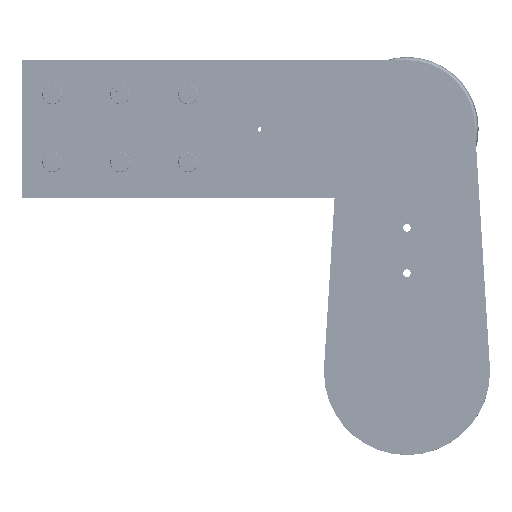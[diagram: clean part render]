
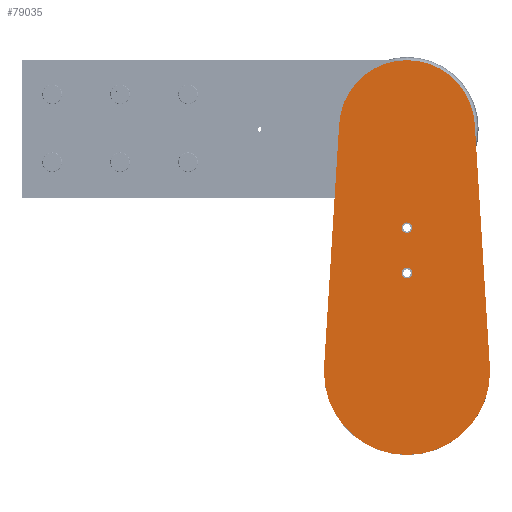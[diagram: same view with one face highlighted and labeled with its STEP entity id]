
A CAD part, top view. The second image highlights one B-rep face of the part: STEP entity #79035.
In plain terms, the highlighted planar face has unit normal (0, 0, 1) as drawn and (0, 0, -1) by its records, which use the part's own axes.
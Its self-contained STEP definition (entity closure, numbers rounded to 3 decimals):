
#604 = DIRECTION ( 'NONE',  ( 1., 0., 0. ) ) ;
#2062 = CARTESIAN_POINT ( 'NONE',  ( 0., 65.5, 0. ) ) ;
#3837 = ORIENTED_EDGE ( 'NONE', *, *, #18847, .F. ) ;
#4061 = ORIENTED_EDGE ( 'NONE', *, *, #73152, .F. ) ;
#4554 = CARTESIAN_POINT ( 'NONE',  ( 0., 161.5, 0. ) ) ;
#4667 = VECTOR ( 'NONE', #15686, 1000. ) ;
#4854 = DIRECTION ( 'NONE',  ( 0., 0., 1. ) ) ;
#5649 = EDGE_CURVE ( 'NONE', #46720, #52131, #33349, .T. ) ;
#6882 = AXIS2_PLACEMENT_3D ( 'NONE', #2062, #68586, #54022 ) ;
#7053 = VERTEX_POINT ( 'NONE', #14180 ) ;
#7165 = DIRECTION ( 'NONE',  ( 1., 0., 0. ) ) ;
#8297 = ORIENTED_EDGE ( 'NONE', *, *, #17674, .F. ) ;
#9070 = AXIS2_PLACEMENT_3D ( 'NONE', #25290, #45621, #31958 ) ;
#9229 = CARTESIAN_POINT ( 'NONE',  ( 0., 0., 0. ) ) ;
#10622 = VERTEX_POINT ( 'NONE', #28036 ) ;
#11566 = VERTEX_POINT ( 'NONE', #48625 ) ;
#12191 = DIRECTION ( 'NONE',  ( 0., 0., 1. ) ) ;
#13316 = ORIENTED_EDGE ( 'NONE', *, *, #32595, .F. ) ;
#13654 = DIRECTION ( 'NONE',  ( 1., 0., 0. ) ) ;
#14180 = CARTESIAN_POINT ( 'NONE',  ( 3.5, 95.5, 0. ) ) ;
#14545 = AXIS2_PLACEMENT_3D ( 'NONE', #73654, #22569, #80032 ) ;
#15686 = DIRECTION ( 'NONE',  ( -0.062, -0.998, 0. ) ) ;
#16533 = CARTESIAN_POINT ( 'NONE',  ( -44.914, 164.286, 0. ) ) ;
#16604 = CIRCLE ( 'NONE', #24831, 55. ) ;
#17045 = ORIENTED_EDGE ( 'NONE', *, *, #49434, .F. ) ;
#17674 = EDGE_CURVE ( 'NONE', #47295, #7053, #18374, .T. ) ;
#18374 = CIRCLE ( 'NONE', #14545, 3.5 ) ;
#18478 = ORIENTED_EDGE ( 'NONE', *, *, #5649, .F. ) ;
#18847 = EDGE_CURVE ( 'NONE', #36719, #26120, #50358, .T. ) ;
#19042 = CIRCLE ( 'NONE', #6882, 3.5 ) ;
#19119 = CARTESIAN_POINT ( 'NONE',  ( 0., 0., 0. ) ) ;
#19546 = CARTESIAN_POINT ( 'NONE',  ( 54.894, 3.406, 0. ) ) ;
#20799 = ORIENTED_EDGE ( 'NONE', *, *, #24756, .F. ) ;
#20902 = CARTESIAN_POINT ( 'NONE',  ( 0., 95.5, 0. ) ) ;
#22222 = CARTESIAN_POINT ( 'NONE',  ( -44.914, 164.286, 0. ) ) ;
#22569 = DIRECTION ( 'NONE',  ( 0., 0., -1. ) ) ;
#23502 = CIRCLE ( 'NONE', #45712, 3.5 ) ;
#24716 = CIRCLE ( 'NONE', #58627, 3.5 ) ;
#24756 = EDGE_CURVE ( 'NONE', #11566, #36454, #23502, .T. ) ;
#24831 = AXIS2_PLACEMENT_3D ( 'NONE', #9229, #28354, #7165 ) ;
#25290 = CARTESIAN_POINT ( 'NONE',  ( 0., 0., 0. ) ) ;
#26120 = VERTEX_POINT ( 'NONE', #80489 ) ;
#26171 = AXIS2_PLACEMENT_3D ( 'NONE', #85844, #12191, #26325 ) ;
#26325 = DIRECTION ( 'NONE',  ( 1., 0., 0. ) ) ;
#27043 = CARTESIAN_POINT ( 'NONE',  ( 0., 65.5, 0. ) ) ;
#27181 = VERTEX_POINT ( 'NONE', #66016 ) ;
#28036 = CARTESIAN_POINT ( 'NONE',  ( 55., 0., 0. ) ) ;
#28354 = DIRECTION ( 'NONE',  ( 0., 0., 1. ) ) ;
#29102 = AXIS2_PLACEMENT_3D ( 'NONE', #19119, #85585, #65566 ) ;
#31958 = DIRECTION ( 'NONE',  ( 1., 0., 0. ) ) ;
#32345 = VECTOR ( 'NONE', #85035, 1000. ) ;
#32595 = EDGE_CURVE ( 'NONE', #52131, #36719, #54368, .T. ) ;
#33308 = CIRCLE ( 'NONE', #29102, 55. ) ;
#33349 = LINE ( 'NONE', #38581, #32345 ) ;
#33713 = DIRECTION ( 'NONE',  ( 0., 0., -1. ) ) ;
#34058 = EDGE_CURVE ( 'NONE', #26120, #27181, #33308, .T. ) ;
#36454 = VERTEX_POINT ( 'NONE', #50094 ) ;
#36719 = VERTEX_POINT ( 'NONE', #22222 ) ;
#38154 = FACE_BOUND ( 'NONE', #72956, .T. ) ;
#38581 = CARTESIAN_POINT ( 'NONE',  ( 44.914, 164.286, 0. ) ) ;
#39556 = CARTESIAN_POINT ( 'NONE',  ( 44.914, 164.286, 0. ) ) ;
#40929 = DIRECTION ( 'NONE',  ( 0., 0., -1. ) ) ;
#40950 = EDGE_CURVE ( 'NONE', #7053, #47295, #24716, .T. ) ;
#41078 = CARTESIAN_POINT ( 'NONE',  ( -3.5, 95.5, 0. ) ) ;
#41364 = ORIENTED_EDGE ( 'NONE', *, *, #40950, .F. ) ;
#43483 = DIRECTION ( 'NONE',  ( 1., 0., 0. ) ) ;
#43760 = PLANE ( 'NONE',  #72868 ) ;
#44793 = ORIENTED_EDGE ( 'NONE', *, *, #34058, .F. ) ;
#45621 = DIRECTION ( 'NONE',  ( 0., 0., 1. ) ) ;
#45712 = AXIS2_PLACEMENT_3D ( 'NONE', #27043, #33713, #604 ) ;
#46720 = VERTEX_POINT ( 'NONE', #19546 ) ;
#47295 = VERTEX_POINT ( 'NONE', #41078 ) ;
#48625 = CARTESIAN_POINT ( 'NONE',  ( 3.5, 65.5, 0. ) ) ;
#49434 = EDGE_CURVE ( 'NONE', #27181, #10622, #16604, .T. ) ;
#50094 = CARTESIAN_POINT ( 'NONE',  ( -3.5, 65.5, 0. ) ) ;
#50358 = LINE ( 'NONE', #16533, #4667 ) ;
#51533 = EDGE_LOOP ( 'NONE', ( #41364, #8297 ) ) ;
#52131 = VERTEX_POINT ( 'NONE', #39556 ) ;
#54022 = DIRECTION ( 'NONE',  ( 1., 0., 0. ) ) ;
#54368 = CIRCLE ( 'NONE', #26171, 45. ) ;
#58627 = AXIS2_PLACEMENT_3D ( 'NONE', #20902, #40929, #13654 ) ;
#59294 = EDGE_CURVE ( 'NONE', #36454, #11566, #19042, .T. ) ;
#64129 = FACE_OUTER_BOUND ( 'NONE', #85039, .T. ) ;
#65149 = FACE_BOUND ( 'NONE', #51533, .T. ) ;
#65566 = DIRECTION ( 'NONE',  ( 1., 0., 0. ) ) ;
#66016 = CARTESIAN_POINT ( 'NONE',  ( -55., 0., 0. ) ) ;
#67028 = ORIENTED_EDGE ( 'NONE', *, *, #59294, .F. ) ;
#68586 = DIRECTION ( 'NONE',  ( 0., 0., -1. ) ) ;
#72868 = AXIS2_PLACEMENT_3D ( 'NONE', #4554, #4854, #43483 ) ;
#72956 = EDGE_LOOP ( 'NONE', ( #20799, #67028 ) ) ;
#73152 = EDGE_CURVE ( 'NONE', #10622, #46720, #81906, .T. ) ;
#73654 = CARTESIAN_POINT ( 'NONE',  ( 0., 95.5, 0. ) ) ;
#79035 = ADVANCED_FACE ( 'NONE', ( #65149, #38154, #64129 ), #43760, .F. ) ;
#80032 = DIRECTION ( 'NONE',  ( 1., 0., 0. ) ) ;
#80489 = CARTESIAN_POINT ( 'NONE',  ( -54.894, 3.406, 0. ) ) ;
#81906 = CIRCLE ( 'NONE', #9070, 55. ) ;
#85035 = DIRECTION ( 'NONE',  ( -0.062, 0.998, 0. ) ) ;
#85039 = EDGE_LOOP ( 'NONE', ( #13316, #18478, #4061, #17045, #44793, #3837 ) ) ;
#85585 = DIRECTION ( 'NONE',  ( 0., 0., 1. ) ) ;
#85844 = CARTESIAN_POINT ( 'NONE',  ( 0., 161.5, 0. ) ) ;
